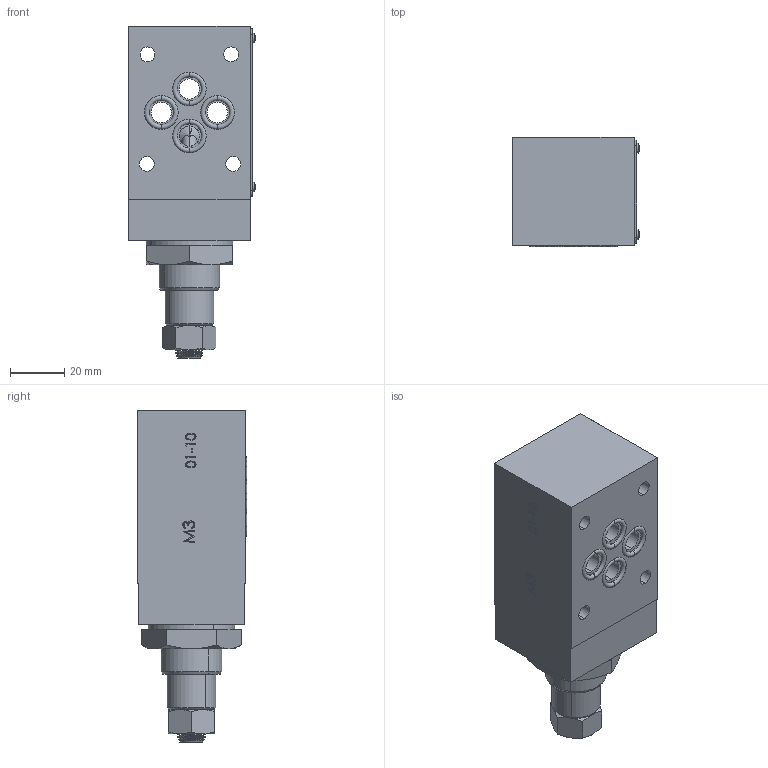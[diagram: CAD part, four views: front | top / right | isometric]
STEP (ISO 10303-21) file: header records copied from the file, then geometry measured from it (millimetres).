
FILE_DESCRIPTION (( 'STEP AP214' ), '1' );
FILE_NAME ('FT358-5-B-03-H.STEP', '2015-05-18T08:03:47', ( '' ), ( '' ), 'SwSTEP 2.0', 'SolidWorks 2014', '' );
FILE_SCHEMA (( 'AUTOMOTIVE_DESIGN' ));
Length unit declared in the file: millimetre
Products named in the file (1): FT358-5-B-03-H
Bounding box: 46.96 x 40.38 x 122.8 mm (x, y, z)
Surface area: 29723.5 mm2 (no closed solid volume)
Topology: 0 solids, 35 shells, 725 faces, 3348 edges, 2535 vertices
Faces by surface type: plane 403, bspline 160, cylinder 89, cone 49, torus 24
Entity records: 56851 total; most frequent: CARTESIAN_POINT 24617, ORIENTED_EDGE 4636, DIRECTION 3967, EDGE_CURVE 3346, VERTEX_POINT 2535, LINE 2213, VECTOR 2213, EDGE_LOOP 915
